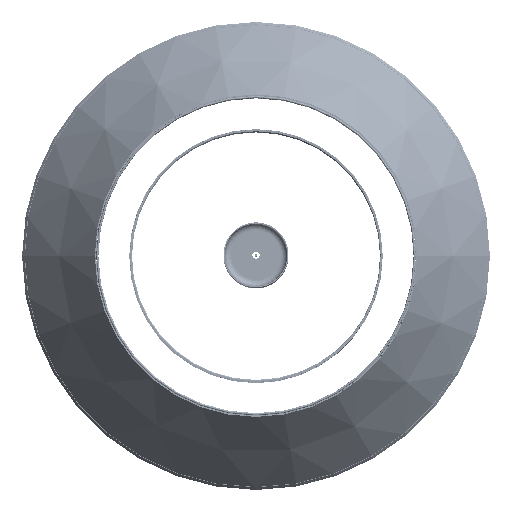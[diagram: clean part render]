
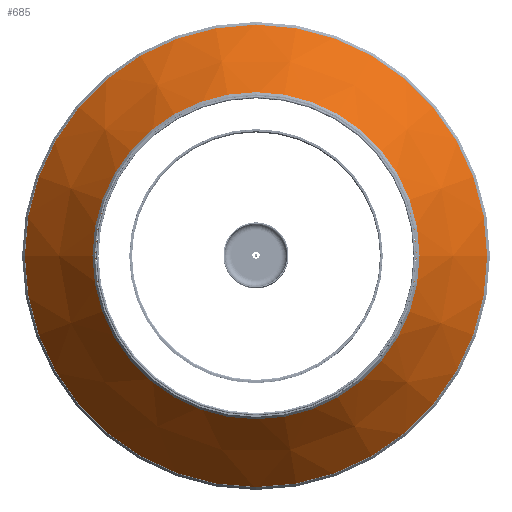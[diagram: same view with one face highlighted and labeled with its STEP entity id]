
A CAD part, top view. The second image highlights one B-rep face of the part: STEP entity #685.
In plain terms, the highlighted conical face has half-angle 38.367 degrees and reference radius 210 mm.
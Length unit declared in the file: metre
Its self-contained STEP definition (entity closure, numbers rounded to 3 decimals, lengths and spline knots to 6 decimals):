
#685 = ADVANCED_FACE( '', ( #1351, #1352 ), #1353, .T. );
#1351 = FACE_OUTER_BOUND( '', #4450, .T. );
#1352 = FACE_BOUND( '', #4451, .T. );
#1353 = CONICAL_SURFACE( '', #4452, 0.21, 0.67 );
#4450 = EDGE_LOOP( '', ( #7573 ) );
#4451 = EDGE_LOOP( '', ( #7574 ) );
#4452 = AXIS2_PLACEMENT_3D( '', #7575, #7576, #7577 );
#7573 = ORIENTED_EDGE( '', *, *, #11913, .F. );
#7574 = ORIENTED_EDGE( '', *, *, #11914, .T. );
#7575 = CARTESIAN_POINT( '', ( 0., 0., 0.0245 ) );
#7576 = DIRECTION( '', ( 0., 0., -1. ) );
#7577 = DIRECTION( '', ( -1., 0., 0. ) );
#11913 = EDGE_CURVE( '', #13154, #13154, #13155, .T. );
#11914 = EDGE_CURVE( '', #13156, #13156, #13157, .T. );
#13154 = VERTEX_POINT( '', #15610 );
#13155 = CIRCLE( '', #15611, 0.305 );
#13156 = VERTEX_POINT( '', #15612 );
#13157 = CIRCLE( '', #15613, 0.21 );
#15610 = CARTESIAN_POINT( '', ( -0.305, 0., -0.0955 ) );
#15611 = AXIS2_PLACEMENT_3D( '', #103733, #103734, #103735 );
#15612 = CARTESIAN_POINT( '', ( -0.21, 0., 0.0245 ) );
#15613 = AXIS2_PLACEMENT_3D( '', #103736, #103737, #103738 );
#103733 = CARTESIAN_POINT( '', ( 0., 0., -0.0955 ) );
#103734 = DIRECTION( '', ( 0., 0., -1. ) );
#103735 = DIRECTION( '', ( -1., 0., 0. ) );
#103736 = CARTESIAN_POINT( '', ( 0., 0., 0.0245 ) );
#103737 = DIRECTION( '', ( 0., 0., -1. ) );
#103738 = DIRECTION( '', ( -1., 0., 0. ) );
